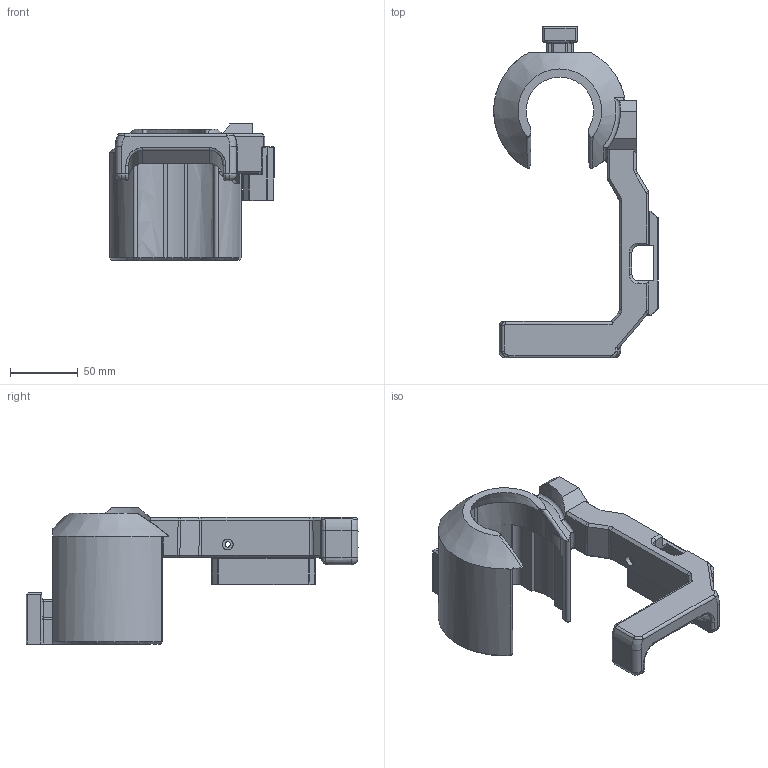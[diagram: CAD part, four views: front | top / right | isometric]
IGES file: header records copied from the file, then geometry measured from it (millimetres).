
Start section: ROBERT BOSCH POWER TOOLS GmbH
Global section: file name: flamingo_holder_jul2025.igs; native system: Creo Parametric by PTC Inc.; preprocessor: 2025123; author: GOS1PG2; organization: Unknown; date: 20260127.110644; units: millimetre
Bounding box: 121.86 x 245.9 x 100.75 mm (x, y, z)
Surface area: 88251.7 mm2 (no closed solid volume)
Topology: 0 solids, 0 shells, 477 faces, 2358 edges, 2356 vertices
Faces by surface type: bspline 254, revolution 223
